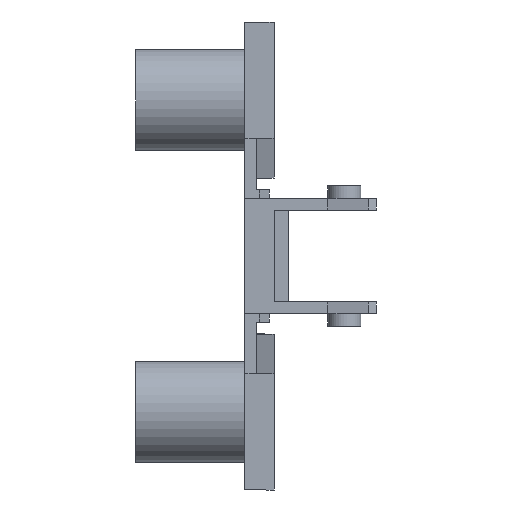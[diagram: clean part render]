
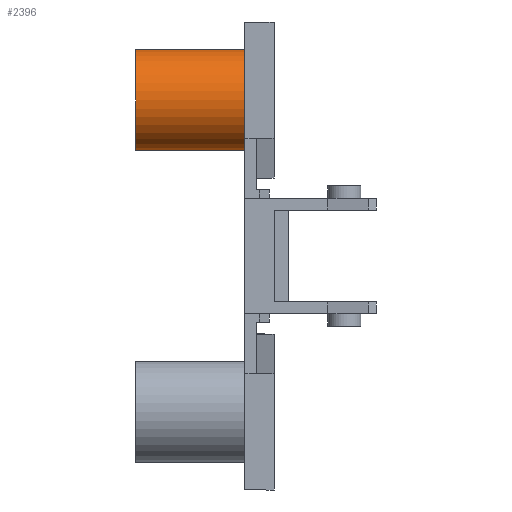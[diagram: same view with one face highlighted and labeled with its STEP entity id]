
A CAD part, front view. The second image highlights one B-rep face of the part: STEP entity #2396.
In plain terms, the highlighted cylindrical face has radius 5.2 mm (diameter 10.4 mm), a partial arc.
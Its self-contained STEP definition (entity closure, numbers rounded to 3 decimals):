
#99 = CARTESIAN_POINT ( 'NONE',  ( -11.2, 0., 21.2 ) ) ;
#100 = DIRECTION ( 'NONE',  ( 1., 0., 0. ) ) ;
#442 = CARTESIAN_POINT ( 'NONE',  ( -11.2, 0., 10.8 ) ) ;
#448 = DIRECTION ( 'NONE',  ( 1., 0., 0. ) ) ;
#549 = CARTESIAN_POINT ( 'NONE',  ( -11.2, 0., 16. ) ) ;
#553 = DIRECTION ( 'NONE',  ( -1., 0., 0. ) ) ;
#554 = DIRECTION ( 'NONE',  ( 0., 0., 1. ) ) ;
#738 = CARTESIAN_POINT ( 'NONE',  ( 0., 0., 16. ) ) ;
#746 = DIRECTION ( 'NONE',  ( -1., 0., 0. ) ) ;
#747 = DIRECTION ( 'NONE',  ( 0., 0., -1. ) ) ;
#1018 = CIRCLE ( 'NONE', #2905, 5.2 ) ;
#1136 = LINE ( 'NONE', #99, #1140 ) ;
#1140 = VECTOR ( 'NONE', #100, 1000. ) ;
#1367 = EDGE_LOOP ( 'NONE', ( #1460, #1388, #1494, #1429 ) ) ;
#1388 = ORIENTED_EDGE ( 'NONE', *, *, #2978, .F. ) ;
#1429 = ORIENTED_EDGE ( 'NONE', *, *, #3125, .T. ) ;
#1460 = ORIENTED_EDGE ( 'NONE', *, *, #3238, .F. ) ;
#1494 = ORIENTED_EDGE ( 'NONE', *, *, #2902, .T. ) ;
#2112 = CYLINDRICAL_SURFACE ( 'NONE', #2824, 5.2 ) ;
#2119 = FACE_OUTER_BOUND ( 'NONE', #1367, .T. ) ;
#2242 = VECTOR ( 'NONE', #448, 1000. ) ;
#2253 = LINE ( 'NONE', #442, #2242 ) ;
#2342 = CIRCLE ( 'NONE', #3007, 5.2 ) ;
#2396 = ADVANCED_FACE ( 'NONE', ( #2119 ), #2112, .T. ) ;
#2509 = VERTEX_POINT ( 'NONE', #3608 ) ;
#2514 = VERTEX_POINT ( 'NONE', #3550 ) ;
#2515 = VERTEX_POINT ( 'NONE', #3485 ) ;
#2516 = VERTEX_POINT ( 'NONE', #3398 ) ;
#2824 = AXIS2_PLACEMENT_3D ( 'NONE', #3458, #3435, #3369 ) ;
#2902 = EDGE_CURVE ( 'NONE', #2515, #2516, #2253, .T. ) ;
#2905 = AXIS2_PLACEMENT_3D ( 'NONE', #738, #746, #747 ) ;
#2978 = EDGE_CURVE ( 'NONE', #2515, #2514, #2342, .T. ) ;
#3007 = AXIS2_PLACEMENT_3D ( 'NONE', #549, #553, #554 ) ;
#3125 = EDGE_CURVE ( 'NONE', #2516, #2509, #1018, .T. ) ;
#3238 = EDGE_CURVE ( 'NONE', #2514, #2509, #1136, .T. ) ;
#3369 = DIRECTION ( 'NONE',  ( 0., 0., -1. ) ) ;
#3398 = CARTESIAN_POINT ( 'NONE',  ( 0., 0., 10.8 ) ) ;
#3435 = DIRECTION ( 'NONE',  ( 1., 0., 0. ) ) ;
#3458 = CARTESIAN_POINT ( 'NONE',  ( -11.2, 0., 16. ) ) ;
#3485 = CARTESIAN_POINT ( 'NONE',  ( -11.2, 0., 10.8 ) ) ;
#3550 = CARTESIAN_POINT ( 'NONE',  ( -11.2, 0., 21.2 ) ) ;
#3608 = CARTESIAN_POINT ( 'NONE',  ( 0., 0., 21.2 ) ) ;
